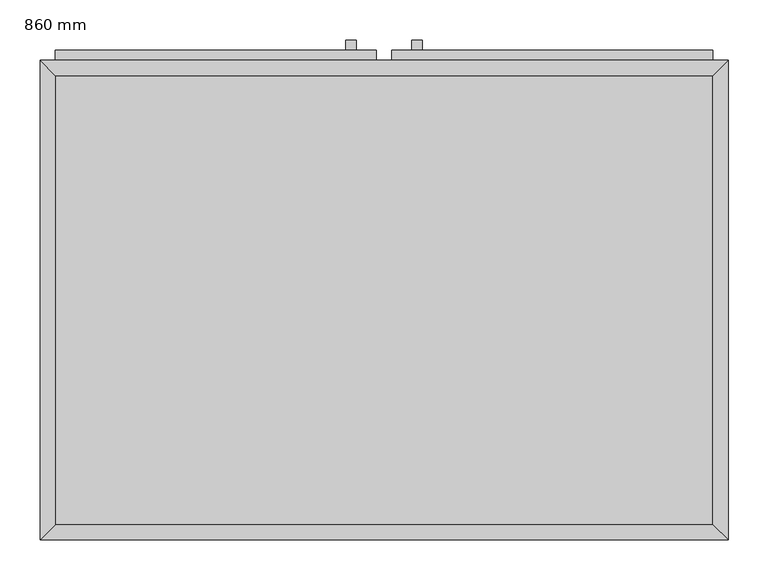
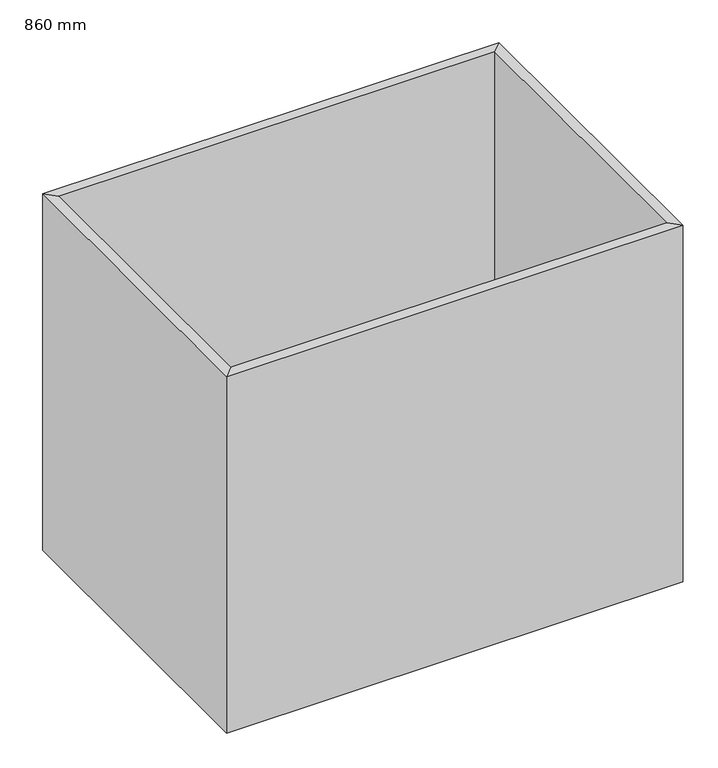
"""IFC4 building model written with IfcOpenShell, lengths in millimetres: furniture geometry, Armario-Puerta doble Unidad de fregadero : 860 mm."""

from ifc_helpers import new_model, si_unit, frame, origin, place, context, project, spatial, polyline, outline, extrude, faceted_brep, source, transform, mapped, element, save


def furniture_860_mm_d80aeb4c(model_context):
    return source(origin(), model_context, "Body", "SolidModel", [
        extrude(outline(polyline([(429.6877049, 19.05), (-392.2122951, 19.05), (-392.2122951, 580.95), (429.6877049, 580.95), (429.6877049, 19.05)])), frame((0.0, 0.0, 150.0), z_axis=(0.0, 0.0, 1.0), x_axis=(1.0, 0.0, 0.0)), (0.0, 0.0, 1.0), 19.05),
        faceted_brep([(429.6877049, 580.95, 860.0), (-392.2122951, 580.95, 860.0), (-392.2122951, 580.95, 150.0), (429.6877049, 580.95, 150.0), (448.7377049, 600.0, 860.0), (-411.2622951, 600.0, 860.0), (448.7377049, 600.0, 150.0), (-411.2622951, 600.0, 150.0), (-392.2122951, 19.05, 860.0), (-392.2122951, 19.05, 150.0), (-411.2622951, 0.0, 860.0), (-411.2622951, 0.0, 150.0), (429.6877049, 19.05, 860.0), (429.6877049, 19.05, 150.0), (448.7377049, 0.0, 860.0), (448.7377049, 0.0, 150.0)], [[[0, 1, 2, 3]], [[4, 5, 1, 0]], [[6, 7, 5, 4]], [[3, 2, 7, 6]], [[1, 8, 9, 2]], [[5, 10, 8, 1]], [[7, 11, 10, 5]], [[2, 9, 11, 7]], [[8, 12, 13, 9]], [[10, 14, 12, 8]], [[11, 15, 14, 10]], [[9, 13, 15, 11]], [[12, 0, 3, 13]], [[14, 4, 0, 12]], [[15, 6, 4, 14]], [[13, 3, 6, 15]]]),
        extrude(outline(polyline([(9.2127049, 612.7), (9.2127049, 600.0), (-392.2122951, 600.0), (-392.2122951, 612.7), (9.2127049, 612.7)])), frame((0.0, 0.0, 169.05), z_axis=(0.0, 0.0, 1.0), x_axis=(1.0, 0.0, 0.0)), (0.0, 0.0, 1.0), 671.9),
        extrude(outline(polyline([(429.6877049, 612.7), (429.6877049, 600.0), (28.2627049, 600.0), (28.2627049, 612.7), (429.6877049, 612.7)])), frame((0.0, 0.0, 169.05), z_axis=(0.0, 0.0, 1.0), x_axis=(1.0, 0.0, 0.0)), (0.0, 0.0, 1.0), 671.9),
        extrude(outline(polyline([(-16.1872951, 625.4), (-16.1872951, 612.7), (-28.8872951, 612.7), (-28.8872951, 625.4), (-16.1872951, 625.4)])), frame((0.0, 0.0, 701.25), z_axis=(0.0, 0.0, 1.0), x_axis=(1.0, 0.0, 0.0)), (0.0, 0.0, 1.0), 101.6),
        extrude(outline(polyline([(66.3627049, 625.4), (66.3627049, 612.7), (53.6627049, 612.7), (53.6627049, 625.4), (66.3627049, 625.4)])), frame((0.0, 0.0, 701.25), z_axis=(0.0, 0.0, 1.0), x_axis=(1.0, 0.0, 0.0)), (0.0, 0.0, 1.0), 101.6),
    ])


if __name__ == "__main__":
    model = new_model("IFC4")
    model_context = context("Model", 3, world=origin())
    ifc_project = project(units=[si_unit("LENGTHUNIT", "METRE", prefix="MILLI")], contexts=[model_context])
    site = spatial("IfcSite", under=ifc_project)
    building = spatial("IfcBuilding", under=site)
    placement = place(None, origin())
    furniture_860_mm_shape = furniture_860_mm_d80aeb4c(model_context)
    element("IfcFurniture", 1, ObjectType="Armario-Puerta doble Unidad de fregadero : 860 mm", at=placement, inside=building, context=model_context, shape_type="MappedRepresentation", body=[
        mapped(furniture_860_mm_shape, transform((0.0, 0.0, 0.0), x_axis=(1.0, 0.0, 0.0), y_axis=(0.0, 1.0, 0.0), z_axis=(0.0, 0.0, 1.0))),
    ])
    save(model, "model.ifc")
